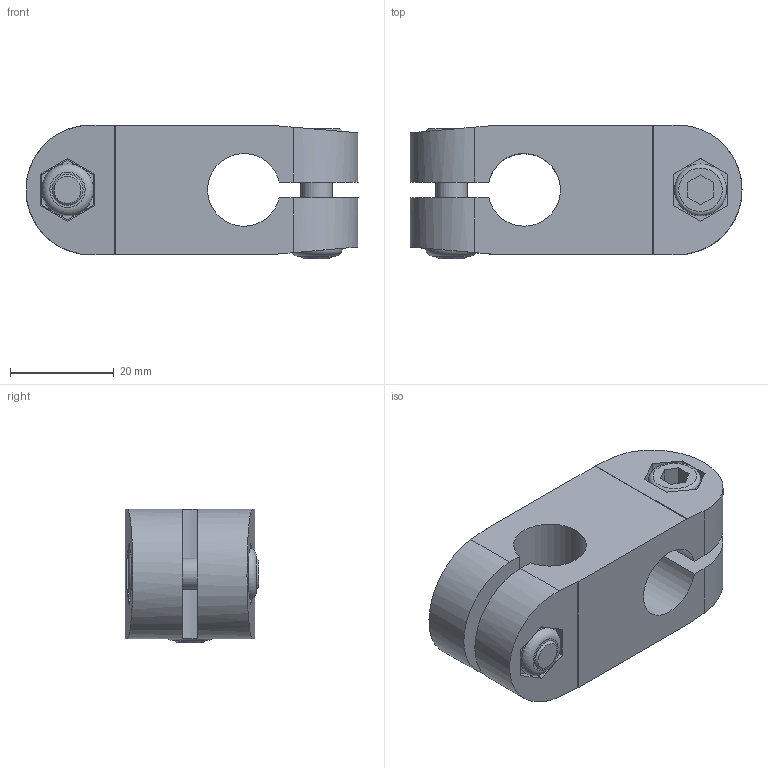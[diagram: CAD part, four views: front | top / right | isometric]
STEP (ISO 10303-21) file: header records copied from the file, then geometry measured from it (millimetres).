
FILE_DESCRIPTION( ( 'STEP AP203' ), '1' );
FILE_NAME( 'C:/Temp/Ganter_Step_05_03_2020/data/3_7/131/gn_131_1_al/Two-way connector clamp GN 131-B14-B14-2-BL.stp', '2020-03-12T14:16:05', ( 'License CC BY-ND 4.0' ), ( 'CADENAS' ), ' ', 'PARTsolutions', ' ' );
FILE_SCHEMA( ( 'CONFIG_CONTROL_DESIGN' ) );
Length unit declared in the file: millimetre
Products named in the file (1): _Two-way connector clamp GN 131-B14-B14-2-BL
Bounding box: 64 x 25.8 x 25.8 mm (x, y, z)
Volume: 25873.2 mm3; surface area: 11541.3 mm2
Topology: 1 solids, 1 shells, 116 faces, 279 edges, 181 vertices
Faces by surface type: plane 88, cylinder 22, torus 4, cone 2
Full cylindrical faces by diameter (mm): 6 x4, 6.5 x4, 10 x4
Entity records: 3260 total; most frequent: DIRECTION 550, CARTESIAN_POINT 549, ORIENTED_EDGE 512, EDGE_CURVE 256, LINE 196, VECTOR 196, AXIS2_PLACEMENT_3D 177, VERTEX_POINT 176
